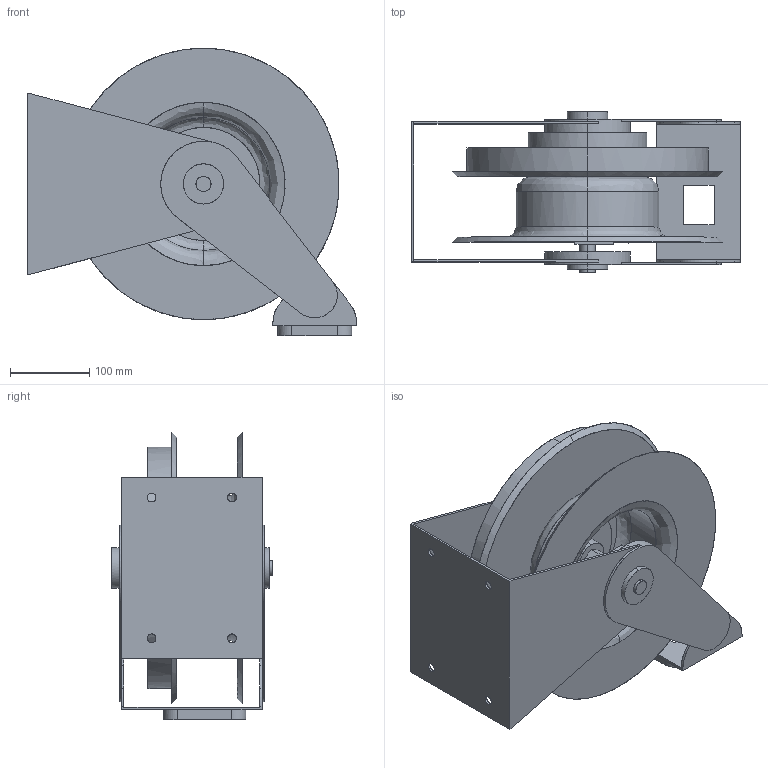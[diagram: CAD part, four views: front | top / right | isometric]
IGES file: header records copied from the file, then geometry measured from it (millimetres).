
Start section: Comment
Global section: file name: DP5000 OXP NARROW.igs; native system:  By UGS Corp.; preprocessor: XPlus GENERIC/IGES 3.0; author: Author; organization: Title; date: 20120803.142022; units: millimetre
Bounding box: 415.44 x 203.2 x 363.25 mm (x, y, z)
Surface area: 822096.7 mm2 (no closed solid volume)
Topology: 0 solids, 0 shells, 151 faces, 736 edges, 736 vertices
Faces by surface type: bspline 151
